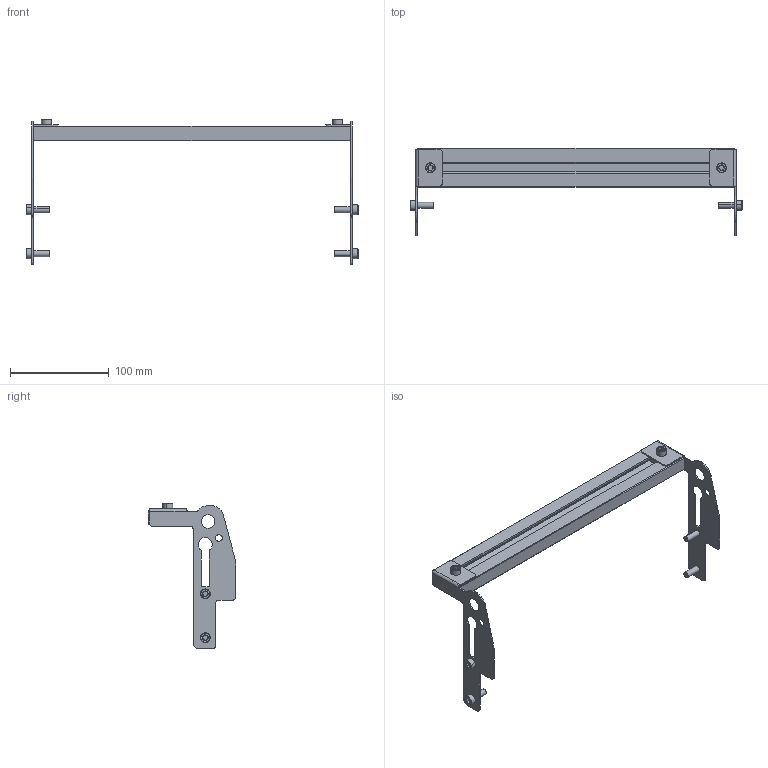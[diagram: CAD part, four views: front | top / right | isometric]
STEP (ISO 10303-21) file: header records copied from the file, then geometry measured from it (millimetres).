
FILE_DESCRIPTION((''),'2;1');
FILE_NAME('207213-12_ASM','2016-08-10T',('adam.dellomodarme'),(''),'PRO/ENGINEER BY PARAMETRIC TECHNOLOGY CORPORATION, 2012420','PRO/ENGINEER BY PARAMETRIC TECHNOLOGY CORPORATION, 2012420','');
FILE_SCHEMA(('CONFIG_CONTROL_DESIGN'));
Length unit declared in the file: inch
Products named in the file (8): 9206XXM_920618M; 207216-WW_207216-12; 834-019; 207130-LH; 9206XXM_920612M; 207130-RH; ASM0001_ASM; 207213-12_ASM
Assembly tree (12 placements, depth 3):
  207213-12_ASM
    ASM0001_ASM
      9206XXM_920618M  x4
      207216-WW_207216-12
      834-019  x2
      207130-LH
      9206XXM_920612M  x2
      207130-RH
Bounding box: 336.41 x 88.64 x 147.81 mm (x, y, z)
Volume: 110673.8 mm3; surface area: 106569.9 mm2
Topology: 11 solids, 11 shells, 344 faces, 843 edges, 533 vertices
Faces by surface type: plane 146, cylinder 132, cone 66
Entity records: 7882 total; most frequent: CARTESIAN_POINT 1535, DIRECTION 1360, ORIENTED_EDGE 1258, EDGE_CURVE 629, AXIS2_PLACEMENT_3D 506, VERTEX_POINT 409, VECTOR 348, LINE 348
